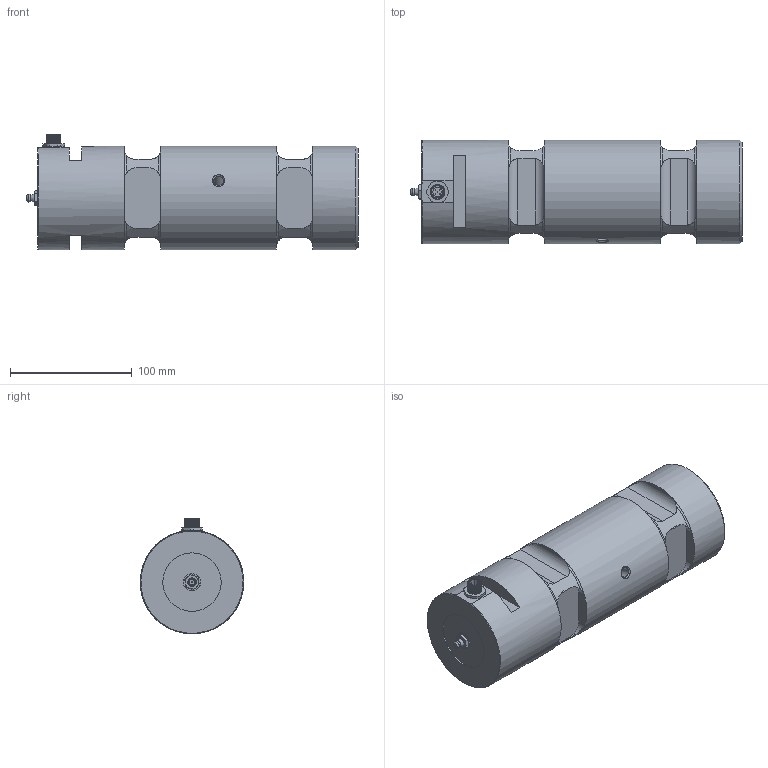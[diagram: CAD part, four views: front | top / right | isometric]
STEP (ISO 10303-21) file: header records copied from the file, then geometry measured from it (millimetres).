
FILE_DESCRIPTION(/* description */ ('Alibre Inc.'),/* implementation_level */ '2;1');
FILE_NAME(/* name */ 'export1',/* time_stamp */ '2018-02-23T09:01:48+01:00',/* author */ (''),/* organization */ (''),/* preprocessor_version */ 'ST-DEVELOPER v14',/* originating_system */ 'Alibre',/* authorisation */ '');
FILE_SCHEMA (('CONFIG_CONTROL_DESIGN'));
Length unit declared in the file: centimetre
Products named in the file (7): ID_1; ID_2; ID_3; ID_4; ID_5
Bounding box: 272.7 x 85 x 95.04 mm (x, y, z)
Volume: 1381483.6 mm3; surface area: 97640.8 mm2
Topology: 9 solids, 9 shells, 237 faces, 542 edges, 331 vertices
Faces by surface type: plane 96, cylinder 79, bspline 27, cone 18, torus 17
Full cylindrical faces by diameter (mm): 0.5 x8, 0.504 x1, 8 x5, 8.917 x1, 10 x4, 11.5 x1, 13 x1, 14 x1, 14.376 x1, 48 x1, 85 x3
Entity records: 20826 total; most frequent: CARTESIAN_POINT 15841, ORIENTED_EDGE 974, DIRECTION 639, EDGE_CURVE 482, VERTEX_POINT 316, FACE_BOUND 301, EDGE_LOOP 298, AXIS2_PLACEMENT_3D 287
